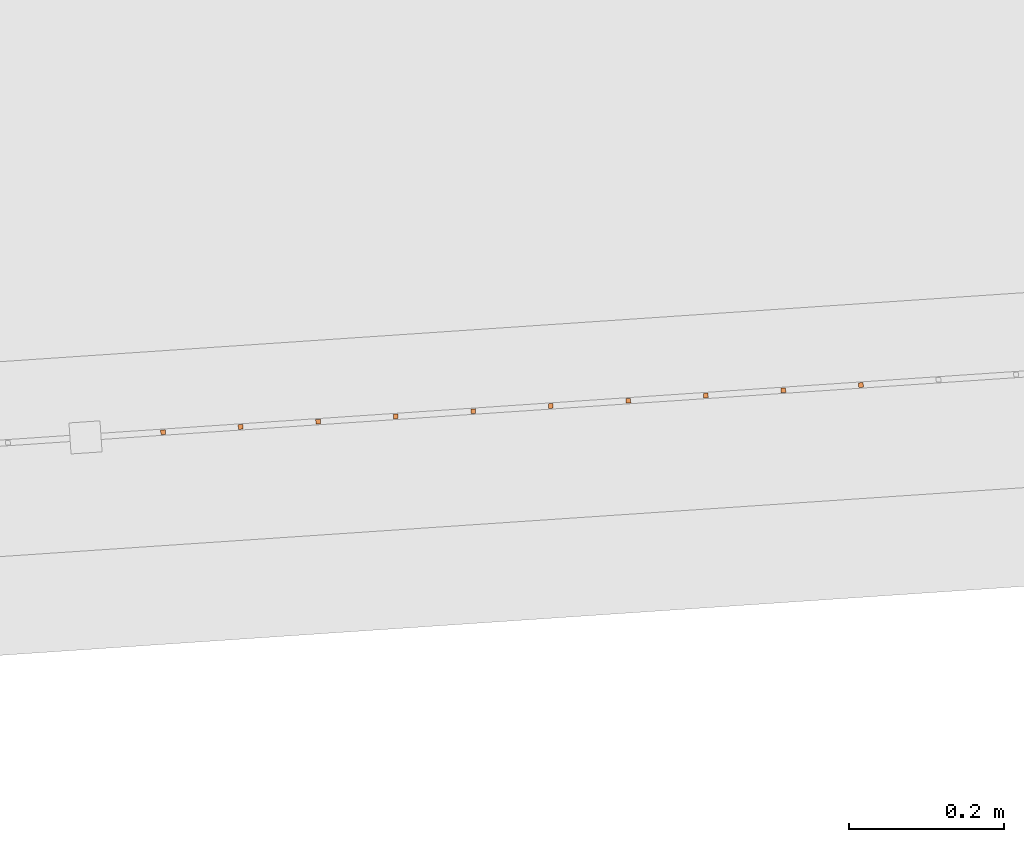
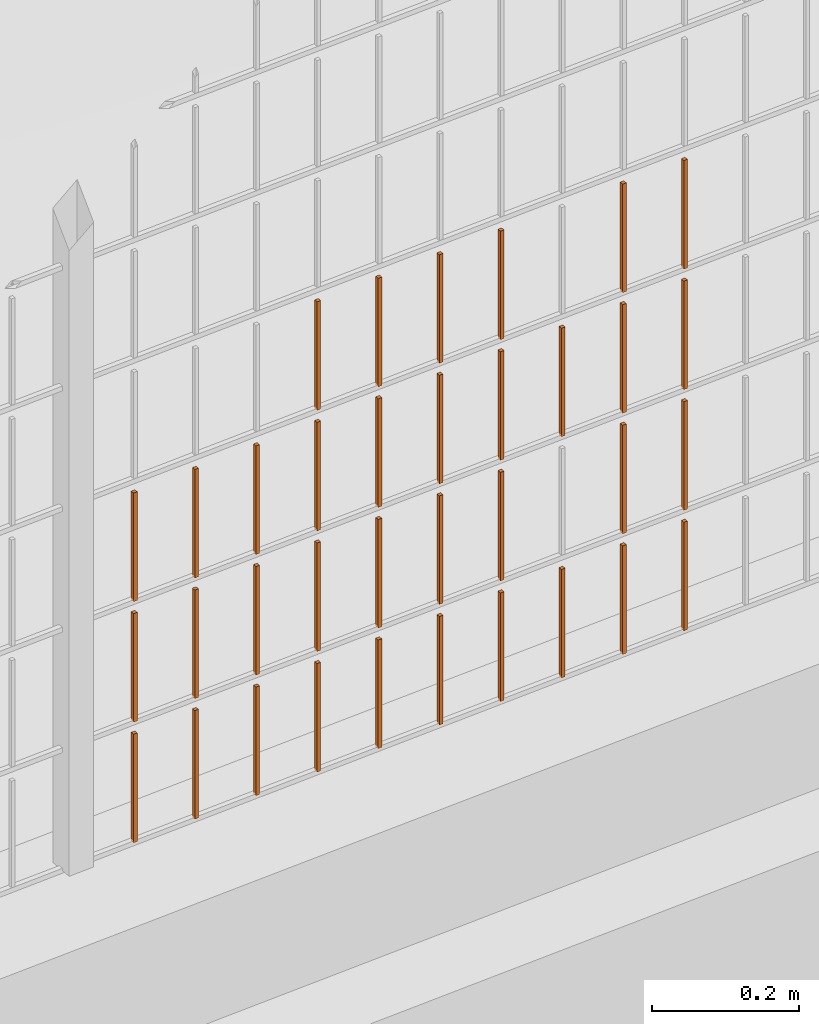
# One storey, part 352 of 1809: 35 proxies, 1 element without a shape of its own.
"""IFC2X3 building model written with IfcOpenShell, lengths in millimetres."""

from ifc_helpers import new_model, entity, si_unit, converted_unit, derived_unit, money_unit, direction, frame, origin_with_axes, place, context, subcontext, project, spatial, faceted_brep, source, transform, mapped, material, type_object, element, aggregate, save


model = new_model("IFC2X3")

# Units and contexts
model_context = context("Model", 3, precision=0.01, world=origin_with_axes(), true_north=direction((0.0, 1.0)))
body_context = subcontext(model_context, "Body", "Model", "MODEL_VIEW")
ifc_project = project(units=[si_unit("LENGTHUNIT", "METRE", prefix="MILLI"), si_unit("AREAUNIT", "SQUARE_METRE"), si_unit("VOLUMEUNIT", "CUBIC_METRE"), converted_unit("PLANEANGLEUNIT", "DEGREE", entity("IfcPlaneAngleMeasure", 0.0174532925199), si_unit("PLANEANGLEUNIT", "RADIAN"), dimensions=[0, 0, 0, 0, 0, 0, 0]), si_unit("SOLIDANGLEUNIT", "STERADIAN"), money_unit("EUR"), converted_unit("TIMEUNIT", "Year", entity("IfcTimeMeasure", 31556926.0), si_unit("TIMEUNIT", "SECOND"), dimensions=[0, 0, 1, 0, 0, 0, 0]), si_unit("MASSUNIT", "GRAM", prefix="KILO"), si_unit("THERMODYNAMICTEMPERATUREUNIT", "DEGREE_CELSIUS"), si_unit("LUMINOUSINTENSITYUNIT", "LUMEN"), si_unit("ENERGYUNIT", "JOULE", prefix="MEGA"), derived_unit("THERMALCONDUCTANCEUNIT", [(si_unit("POWERUNIT", "WATT"), 1), (si_unit("LENGTHUNIT", "METRE"), -1), (si_unit("THERMODYNAMICTEMPERATUREUNIT", "KELVIN"), -1)]), derived_unit("SPECIFICHEATCAPACITYUNIT", [(si_unit("ENERGYUNIT", "JOULE"), 1), (si_unit("MASSUNIT", "GRAM", prefix="KILO"), -1), (si_unit("THERMODYNAMICTEMPERATUREUNIT", "KELVIN"), -1)]), derived_unit("MASSDENSITYUNIT", [(si_unit("MASSUNIT", "GRAM", prefix="KILO"), 1), (si_unit("VOLUMEUNIT", "CUBIC_METRE"), -1)])], contexts=[model_context])

# Site, building, storey
site_placement = place(None, origin_with_axes())
site = spatial("IfcSite", under=ifc_project, at=site_placement, Name="Politse- ja Piirivalveameti ning Päästeameti ühishoone", CompositionType="ELEMENT")
building_placement = place(site_placement, origin_with_axes())
building = spatial("IfcBuilding", under=site, at=building_placement, Name="Politse- ja Piirivalveameti ning Päästeameti ühishoone", CompositionType="ELEMENT")
storey_placement = place(building_placement, origin_with_axes())
storey = spatial("IfcBuildingStorey", under=building, at=storey_placement, Name="Esimene korrus", CompositionType="ELEMENT", Elevation=0.0)

# Proxies
building_element_proxy_type_1 = type_object("IfcBuildingElementProxyType", Name="Railing Type", PredefinedType="NOTDEFINED")
proxy_1_placement = place(storey_placement, frame((89252.001212, -29183.4766571, 203.661247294), z_axis=(0.0, 0.0, 1.0), x_axis=(1.0, 0.0, 0.0)))
proxy_1 = element("IfcBuildingElementProxy", 1, at=proxy_1_placement, inside=storey, type_object=building_element_proxy_type_1, Name="PIIRDEAED")
ifc_material = material(Name="ET-03_Raud")
building_element_proxy_type_2 = type_object("IfcBuildingElementProxyType", Name="IfcBuildingElementProxy", PredefinedType="NOTDEFINED")
shared_shape_1 = source(origin_with_axes(), body_context, "Body", "Brep", [
    faceted_brep([(3.0, 3.0, -0.000752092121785), (-3.0, 3.0, -0.000752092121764), (-3.0, 3.0, 179.99926046), (3.0, 3.0, 179.99926046), (3.0, -3.0, 0.000752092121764), (-3.0, -3.0, 0.000752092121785), (-3.0, -3.0, 180.000764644), (3.0, -3.0, 180.000764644)], [[[0, 1, 2, 3]], [[0, 4, 5, 1]], [[1, 5, 6, 2]], [[3, 2, 6, 7]], [[4, 0, 3, 7]], [[5, 4, 7, 6]]]),
])
proxy_2_placement = place(proxy_1_placement, frame((-26865.4709585, -19112.4359382, 20.4839355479), z_axis=(0.0, 0.0, 1.0), x_axis=(1.0, 0.0, 0.0)))
proxy_2 = element("IfcBuildingElementProxy", 2, at=proxy_2_placement, type_object=building_element_proxy_type_2, material=ifc_material, Name="BALUSTER - 001", context=body_context, shape_type="MappedRepresentation", body=[
    mapped(shared_shape_1, transform((0.0, 0.0, 0.0), x_axis=(-0.0673926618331, 0.997726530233, 0.0), y_axis=(-0.997726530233, -0.0673926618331, 0.0), z_axis=(0.0, 0.0, 1.0))),
])
shared_shape_2 = source(origin_with_axes(), body_context, "Body", "Brep", [
    faceted_brep([(3.0, 3.0, -0.000752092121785), (-3.0, 3.0, -0.000752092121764), (-3.0, 3.0, 179.99926046), (3.0, 3.0, 179.99926046), (3.0, -3.0, 0.000752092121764), (-3.0, -3.0, 0.000752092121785), (-3.0, -3.0, 180.000764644), (3.0, -3.0, 180.000764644)], [[[0, 1, 2, 3]], [[0, 4, 5, 1]], [[1, 5, 6, 2]], [[3, 2, 6, 7]], [[4, 0, 3, 7]], [[5, 4, 7, 6]]]),
])
proxy_3_placement = place(proxy_1_placement, frame((-26865.4709585, -19112.4359382, 420.483935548), z_axis=(0.0, 0.0, 1.0), x_axis=(1.0, 0.0, 0.0)))
proxy_3 = element("IfcBuildingElementProxy", 3, at=proxy_3_placement, type_object=building_element_proxy_type_2, material=ifc_material, Name="BALUSTER - 001", context=body_context, shape_type="MappedRepresentation", body=[
    mapped(shared_shape_2, transform((0.0, 0.0, 0.0), x_axis=(-0.0673926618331, 0.997726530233, 0.0), y_axis=(-0.997726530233, -0.0673926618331, 0.0), z_axis=(0.0, 0.0, 1.0))),
])
shared_shape_3 = source(origin_with_axes(), body_context, "Body", "Brep", [
    faceted_brep([(3.0, 3.0, -0.000752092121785), (-3.0, 3.0, -0.000752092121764), (-3.0, 3.0, 179.99926046), (3.0, 3.0, 179.99926046), (3.0, -3.0, 0.000752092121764), (-3.0, -3.0, 0.000752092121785), (-3.0, -3.0, 180.000764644), (3.0, -3.0, 180.000764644)], [[[0, 1, 2, 3]], [[0, 4, 5, 1]], [[1, 5, 6, 2]], [[3, 2, 6, 7]], [[4, 0, 3, 7]], [[5, 4, 7, 6]]]),
])
proxy_4_placement = place(proxy_1_placement, frame((-26865.4709585, -19112.4359382, 620.483935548), z_axis=(0.0, 0.0, 1.0), x_axis=(1.0, 0.0, 0.0)))
proxy_4 = element("IfcBuildingElementProxy", 4, at=proxy_4_placement, type_object=building_element_proxy_type_2, material=ifc_material, Name="BALUSTER - 001", context=body_context, shape_type="MappedRepresentation", body=[
    mapped(shared_shape_3, transform((0.0, 0.0, 0.0), x_axis=(-0.0673926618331, 0.997726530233, 0.0), y_axis=(-0.997726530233, -0.0673926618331, 0.0), z_axis=(0.0, 0.0, 1.0))),
])
shared_shape_4 = source(origin_with_axes(), body_context, "Body", "Brep", [
    faceted_brep([(3.0, 3.0, -0.000752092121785), (-3.0, 3.0, -0.000752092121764), (-3.0, 3.0, 179.99926046), (3.0, 3.0, 179.99926046), (3.0, -3.0, 0.000752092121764), (-3.0, -3.0, 0.000752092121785), (-3.0, -3.0, 180.000764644), (3.0, -3.0, 180.000764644)], [[[0, 1, 2, 3]], [[0, 4, 5, 1]], [[1, 5, 6, 2]], [[3, 2, 6, 7]], [[4, 0, 3, 7]], [[5, 4, 7, 6]]]),
])
proxy_5_placement = place(proxy_1_placement, frame((-26865.4709585, -19112.4359382, 220.483935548), z_axis=(0.0, 0.0, 1.0), x_axis=(1.0, 0.0, 0.0)))
proxy_5 = element("IfcBuildingElementProxy", 5, at=proxy_5_placement, type_object=building_element_proxy_type_2, material=ifc_material, Name="BALUSTER - 001", context=body_context, shape_type="MappedRepresentation", body=[
    mapped(shared_shape_4, transform((0.0, 0.0, 0.0), x_axis=(-0.0673926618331, 0.997726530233, 0.0), y_axis=(-0.997726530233, -0.0673926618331, 0.0), z_axis=(0.0, 0.0, 1.0))),
])
shared_shape_5 = source(origin_with_axes(), body_context, "Body", "Brep", [
    faceted_brep([(3.0, 3.0, -0.000752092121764), (-3.0, 3.0, -0.000752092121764), (-3.0, 3.0, 179.99926046), (3.0, 3.0, 179.99926046), (3.0, -3.0, 0.000752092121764), (-3.0, -3.0, 0.000752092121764), (-3.0, -3.0, 180.000764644), (3.0, -3.0, 180.000764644)], [[[0, 1, 2, 3]], [[0, 4, 5, 1]], [[1, 5, 6, 2]], [[3, 2, 6, 7]], [[4, 0, 3, 7]], [[5, 4, 7, 6]]]),
])
proxy_6_placement = place(proxy_1_placement, frame((-26765.6983054, -19105.696672, 620.509005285), z_axis=(0.0, 0.0, 1.0), x_axis=(1.0, 0.0, 0.0)))
proxy_6 = element("IfcBuildingElementProxy", 6, at=proxy_6_placement, type_object=building_element_proxy_type_2, material=ifc_material, Name="BALUSTER - 001", context=body_context, shape_type="MappedRepresentation", body=[
    mapped(shared_shape_5, transform((0.0, 0.0, 0.0), x_axis=(-0.0673926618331, 0.997726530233, 0.0), y_axis=(-0.997726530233, -0.0673926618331, 0.0), z_axis=(0.0, 0.0, 1.0))),
])
shared_shape_6 = source(origin_with_axes(), body_context, "Body", "Brep", [
    faceted_brep([(3.0, 3.0, -0.000752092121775), (-3.0, 3.0, -0.000752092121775), (-3.0, 3.0, 179.99926046), (3.0, 3.0, 179.99926046), (3.0, -3.0, 0.000752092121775), (-3.0, -3.0, 0.000752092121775), (-3.0, -3.0, 180.000764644), (3.0, -3.0, 180.000764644)], [[[0, 1, 2, 3]], [[0, 4, 5, 1]], [[1, 5, 6, 2]], [[3, 2, 6, 7]], [[4, 0, 3, 7]], [[5, 4, 7, 6]]]),
])
proxy_7_placement = place(proxy_1_placement, frame((-26266.8350403, -19072.0003411, 20.6343539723), z_axis=(0.0, 0.0, 1.0), x_axis=(1.0, 0.0, 0.0)))
proxy_7 = element("IfcBuildingElementProxy", 7, at=proxy_7_placement, type_object=building_element_proxy_type_2, material=ifc_material, Name="BALUSTER - 001", context=body_context, shape_type="MappedRepresentation", body=[
    mapped(shared_shape_6, transform((0.0, 0.0, 0.0), x_axis=(-0.0673926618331, 0.997726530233, 0.0), y_axis=(-0.997726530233, -0.0673926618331, 0.0), z_axis=(0.0, 0.0, 1.0))),
])
shared_shape_7 = source(origin_with_axes(), body_context, "Body", "Brep", [
    faceted_brep([(3.0, 3.0, -0.000752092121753), (-3.0, 3.0, -0.000752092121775), (-3.0, 3.0, 179.99926046), (3.0, 3.0, 179.99926046), (3.0, -3.0, 0.000752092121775), (-3.0, -3.0, 0.000752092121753), (-3.0, -3.0, 180.000764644), (3.0, -3.0, 180.000764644)], [[[0, 1, 2, 3]], [[0, 4, 5, 1]], [[1, 5, 6, 2]], [[3, 2, 6, 7]], [[4, 0, 3, 7]], [[5, 4, 7, 6]]]),
])
proxy_8_placement = place(proxy_1_placement, frame((-26466.3803464, -19085.4788735, 420.584214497), z_axis=(0.0, 0.0, 1.0), x_axis=(1.0, 0.0, 0.0)))
proxy_8 = element("IfcBuildingElementProxy", 8, at=proxy_8_placement, type_object=building_element_proxy_type_2, material=ifc_material, Name="BALUSTER - 001", context=body_context, shape_type="MappedRepresentation", body=[
    mapped(shared_shape_7, transform((0.0, 0.0, 0.0), x_axis=(-0.0673926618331, 0.997726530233, 0.0), y_axis=(-0.997726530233, -0.0673926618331, 0.0), z_axis=(0.0, 0.0, 1.0))),
])
shared_shape_8 = source(origin_with_axes(), body_context, "Body", "Brep", [
    faceted_brep([(3.0, 3.0, -0.000752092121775), (-3.0, 3.0, -0.000752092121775), (-3.0, 3.0, 179.99926046), (3.0, 3.0, 179.99926046), (3.0, -3.0, 0.000752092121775), (-3.0, -3.0, 0.000752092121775), (-3.0, -3.0, 180.000764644), (3.0, -3.0, 180.000764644)], [[[0, 1, 2, 3]], [[0, 4, 5, 1]], [[1, 5, 6, 2]], [[3, 2, 6, 7]], [[4, 0, 3, 7]], [[5, 4, 7, 6]]]),
])
proxy_9_placement = place(proxy_1_placement, frame((-26266.8350403, -19072.0003411, 220.634353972), z_axis=(0.0, 0.0, 1.0), x_axis=(1.0, 0.0, 0.0)))
proxy_9 = element("IfcBuildingElementProxy", 9, at=proxy_9_placement, type_object=building_element_proxy_type_2, material=ifc_material, Name="BALUSTER - 001", context=body_context, shape_type="MappedRepresentation", body=[
    mapped(shared_shape_8, transform((0.0, 0.0, 0.0), x_axis=(-0.0673926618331, 0.997726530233, 0.0), y_axis=(-0.997726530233, -0.0673926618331, 0.0), z_axis=(0.0, 0.0, 1.0))),
])
proxy_10_placement = place(proxy_1_placement, frame((-26266.8350403, -19072.0003411, 420.634353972), z_axis=(0.0, 0.0, 1.0), x_axis=(1.0, 0.0, 0.0)))
proxy_10 = element("IfcBuildingElementProxy", 10, at=proxy_10_placement, type_object=building_element_proxy_type_2, material=ifc_material, Name="BALUSTER - 001", context=body_context, shape_type="MappedRepresentation", body=[
    mapped(shared_shape_8, transform((0.0, 0.0, 0.0), x_axis=(-0.0673926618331, 0.997726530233, 0.0), y_axis=(-0.997726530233, -0.0673926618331, 0.0), z_axis=(0.0, 0.0, 1.0))),
])
shared_shape_9 = source(origin_with_axes(), body_context, "Body", "Brep", [
    faceted_brep([(3.0, 3.0, -0.000752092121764), (-3.0, 3.0, -0.000752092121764), (-3.0, 3.0, 179.99926046), (3.0, 3.0, 179.99926046), (3.0, -3.0, 0.000752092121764), (-3.0, -3.0, 0.000752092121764), (-3.0, -3.0, 180.000764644), (3.0, -3.0, 180.000764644)], [[[0, 1, 2, 3]], [[0, 4, 5, 1]], [[1, 5, 6, 2]], [[3, 2, 6, 7]], [[4, 0, 3, 7]], [[5, 4, 7, 6]]]),
])
proxy_11_placement = place(proxy_1_placement, frame((-26965.2436115, -19119.1752044, 220.458865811), z_axis=(0.0, 0.0, 1.0), x_axis=(1.0, 0.0, 0.0)))
proxy_11 = element("IfcBuildingElementProxy", 11, at=proxy_11_placement, type_object=building_element_proxy_type_2, material=ifc_material, Name="BALUSTER - 001", context=body_context, shape_type="MappedRepresentation", body=[
    mapped(shared_shape_9, transform((0.0, 0.0, 0.0), x_axis=(-0.0673926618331, 0.997726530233, 0.0), y_axis=(-0.997726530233, -0.0673926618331, 0.0), z_axis=(0.0, 0.0, 1.0))),
])
shared_shape_10 = source(origin_with_axes(), body_context, "Body", "Brep", [
    faceted_brep([(3.0, 3.0, -0.000752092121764), (-3.0, 3.0, -0.000752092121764), (-3.0, 3.0, 179.99926046), (3.0, 3.0, 179.99926046), (3.0, -3.0, 0.000752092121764), (-3.0, -3.0, 0.000752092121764), (-3.0, -3.0, 180.000764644), (3.0, -3.0, 180.000764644)], [[[0, 1, 2, 3]], [[0, 4, 5, 1]], [[1, 5, 6, 2]], [[3, 2, 6, 7]], [[4, 0, 3, 7]], [[5, 4, 7, 6]]]),
])
proxy_12_placement = place(proxy_1_placement, frame((-26765.6983054, -19105.696672, 220.509005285), z_axis=(0.0, 0.0, 1.0), x_axis=(1.0, 0.0, 0.0)))
proxy_12 = element("IfcBuildingElementProxy", 12, at=proxy_12_placement, type_object=building_element_proxy_type_2, material=ifc_material, Name="BALUSTER - 001", context=body_context, shape_type="MappedRepresentation", body=[
    mapped(shared_shape_10, transform((0.0, 0.0, 0.0), x_axis=(-0.0673926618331, 0.997726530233, 0.0), y_axis=(-0.997726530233, -0.0673926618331, 0.0), z_axis=(0.0, 0.0, 1.0))),
])
proxy_13_placement = place(proxy_1_placement, frame((-26765.6983054, -19105.696672, 420.509005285), z_axis=(0.0, 0.0, 1.0), x_axis=(1.0, 0.0, 0.0)))
proxy_13 = element("IfcBuildingElementProxy", 13, at=proxy_13_placement, type_object=building_element_proxy_type_2, material=ifc_material, Name="BALUSTER - 001", context=body_context, shape_type="MappedRepresentation", body=[
    mapped(shared_shape_10, transform((0.0, 0.0, 0.0), x_axis=(-0.0673926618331, 0.997726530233, 0.0), y_axis=(-0.997726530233, -0.0673926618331, 0.0), z_axis=(0.0, 0.0, 1.0))),
])
proxy_14_placement = place(proxy_1_placement, frame((-26965.2436115, -19119.1752044, 420.458865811), z_axis=(0.0, 0.0, 1.0), x_axis=(1.0, 0.0, 0.0)))
proxy_14 = element("IfcBuildingElementProxy", 14, at=proxy_14_placement, type_object=building_element_proxy_type_2, material=ifc_material, Name="BALUSTER - 001", context=body_context, shape_type="MappedRepresentation", body=[
    mapped(shared_shape_10, transform((0.0, 0.0, 0.0), x_axis=(-0.0673926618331, 0.997726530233, 0.0), y_axis=(-0.997726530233, -0.0673926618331, 0.0), z_axis=(0.0, 0.0, 1.0))),
])
shared_shape_11 = source(origin_with_axes(), body_context, "Body", "Brep", [
    faceted_brep([(3.0, 3.0, -0.000752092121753), (-3.0, 3.0, -0.000752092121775), (-3.0, 3.0, 179.99926046), (3.0, 3.0, 179.99926046), (3.0, -3.0, 0.000752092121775), (-3.0, -3.0, 0.000752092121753), (-3.0, -3.0, 180.000764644), (3.0, -3.0, 180.000764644)], [[[0, 1, 2, 3]], [[0, 4, 5, 1]], [[1, 5, 6, 2]], [[3, 2, 6, 7]], [[4, 0, 3, 7]], [[5, 4, 7, 6]]]),
])
proxy_15_placement = place(proxy_1_placement, frame((-26566.1529994, -19092.2181397, 420.55914476), z_axis=(0.0, 0.0, 1.0), x_axis=(1.0, 0.0, 0.0)))
proxy_15 = element("IfcBuildingElementProxy", 15, at=proxy_15_placement, type_object=building_element_proxy_type_2, material=ifc_material, Name="BALUSTER - 001", context=body_context, shape_type="MappedRepresentation", body=[
    mapped(shared_shape_11, transform((0.0, 0.0, 0.0), x_axis=(-0.0673926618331, 0.997726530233, 0.0), y_axis=(-0.997726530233, -0.0673926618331, 0.0), z_axis=(0.0, 0.0, 1.0))),
])
shared_shape_12 = source(origin_with_axes(), body_context, "Body", "Brep", [
    faceted_brep([(3.0, 3.0, -0.000752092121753), (-3.0, 3.0, -0.000752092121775), (-3.0, 3.0, 179.99926046), (3.0, 3.0, 179.99926046), (3.0, -3.0, 0.000752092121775), (-3.0, -3.0, 0.000752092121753), (-3.0, -3.0, 180.000764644), (3.0, -3.0, 180.000764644)], [[[0, 1, 2, 3]], [[0, 4, 5, 1]], [[1, 5, 6, 2]], [[3, 2, 6, 7]], [[4, 0, 3, 7]], [[5, 4, 7, 6]]]),
])
proxy_16_placement = place(proxy_1_placement, frame((-26566.1529994, -19092.2181397, 620.55914476), z_axis=(0.0, 0.0, 1.0), x_axis=(1.0, 0.0, 0.0)))
proxy_16 = element("IfcBuildingElementProxy", 16, at=proxy_16_placement, type_object=building_element_proxy_type_2, material=ifc_material, Name="BALUSTER - 001", context=body_context, shape_type="MappedRepresentation", body=[
    mapped(shared_shape_12, transform((0.0, 0.0, 0.0), x_axis=(-0.0673926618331, 0.997726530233, 0.0), y_axis=(-0.997726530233, -0.0673926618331, 0.0), z_axis=(0.0, 0.0, 1.0))),
])
shared_shape_13 = source(origin_with_axes(), body_context, "Body", "Brep", [
    faceted_brep([(3.0, 3.0, -0.000752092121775), (-3.0, 3.0, -0.000752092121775), (-3.0, 3.0, 179.99926046), (3.0, 3.0, 179.99926046), (3.0, -3.0, 0.000752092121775), (-3.0, -3.0, 0.000752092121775), (-3.0, -3.0, 180.000764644), (3.0, -3.0, 180.000764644)], [[[0, 1, 2, 3]], [[0, 4, 5, 1]], [[1, 5, 6, 2]], [[3, 2, 6, 7]], [[4, 0, 3, 7]], [[5, 4, 7, 6]]]),
])
proxy_17_placement = place(proxy_1_placement, frame((-26266.8350403, -19072.0003411, 620.634353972), z_axis=(0.0, 0.0, 1.0), x_axis=(1.0, 0.0, 0.0)))
proxy_17 = element("IfcBuildingElementProxy", 17, at=proxy_17_placement, type_object=building_element_proxy_type_2, material=ifc_material, Name="BALUSTER - 001", context=body_context, shape_type="MappedRepresentation", body=[
    mapped(shared_shape_13, transform((0.0, 0.0, 0.0), x_axis=(-0.0673926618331, 0.997726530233, 0.0), y_axis=(-0.997726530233, -0.0673926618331, 0.0), z_axis=(0.0, 0.0, 1.0))),
])
shared_shape_14 = source(origin_with_axes(), body_context, "Body", "Brep", [
    faceted_brep([(3.0, 3.0, -0.000752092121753), (-3.0, 3.0, -0.000752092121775), (-3.0, 3.0, 179.99926046), (3.0, 3.0, 179.99926046), (3.0, -3.0, 0.000752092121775), (-3.0, -3.0, 0.000752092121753), (-3.0, -3.0, 180.000764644), (3.0, -3.0, 180.000764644)], [[[0, 1, 2, 3]], [[0, 4, 5, 1]], [[1, 5, 6, 2]], [[3, 2, 6, 7]], [[4, 0, 3, 7]], [[5, 4, 7, 6]]]),
])
proxy_18_placement = place(proxy_1_placement, frame((-26466.3803464, -19085.4788735, 20.5842144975), z_axis=(0.0, 0.0, 1.0), x_axis=(1.0, 0.0, 0.0)))
proxy_18 = element("IfcBuildingElementProxy", 18, at=proxy_18_placement, type_object=building_element_proxy_type_2, material=ifc_material, Name="BALUSTER - 001", context=body_context, shape_type="MappedRepresentation", body=[
    mapped(shared_shape_14, transform((0.0, 0.0, 0.0), x_axis=(-0.0673926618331, 0.997726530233, 0.0), y_axis=(-0.997726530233, -0.0673926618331, 0.0), z_axis=(0.0, 0.0, 1.0))),
])
shared_shape_15 = source(origin_with_axes(), body_context, "Body", "Brep", [
    faceted_brep([(3.0, 3.0, -0.000752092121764), (-3.0, 3.0, -0.000752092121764), (-3.0, 3.0, 179.99926046), (3.0, 3.0, 179.99926046), (3.0, -3.0, 0.000752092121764), (-3.0, -3.0, 0.000752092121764), (-3.0, -3.0, 180.000764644), (3.0, -3.0, 180.000764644)], [[[0, 1, 2, 3]], [[0, 4, 5, 1]], [[1, 5, 6, 2]], [[3, 2, 6, 7]], [[4, 0, 3, 7]], [[5, 4, 7, 6]]]),
])
proxy_19_placement = place(proxy_1_placement, frame((-26765.6983054, -19105.696672, 20.5090052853), z_axis=(0.0, 0.0, 1.0), x_axis=(1.0, 0.0, 0.0)))
proxy_19 = element("IfcBuildingElementProxy", 19, at=proxy_19_placement, type_object=building_element_proxy_type_2, material=ifc_material, Name="BALUSTER - 001", context=body_context, shape_type="MappedRepresentation", body=[
    mapped(shared_shape_15, transform((0.0, 0.0, 0.0), x_axis=(-0.0673926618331, 0.997726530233, 0.0), y_axis=(-0.997726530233, -0.0673926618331, 0.0), z_axis=(0.0, 0.0, 1.0))),
])
proxy_20_placement = place(proxy_1_placement, frame((-26965.2436115, -19119.1752044, 20.4588658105), z_axis=(0.0, 0.0, 1.0), x_axis=(1.0, 0.0, 0.0)))
proxy_20 = element("IfcBuildingElementProxy", 20, at=proxy_20_placement, type_object=building_element_proxy_type_2, material=ifc_material, Name="BALUSTER - 001", context=body_context, shape_type="MappedRepresentation", body=[
    mapped(shared_shape_15, transform((0.0, 0.0, 0.0), x_axis=(-0.0673926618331, 0.997726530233, 0.0), y_axis=(-0.997726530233, -0.0673926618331, 0.0), z_axis=(0.0, 0.0, 1.0))),
])
shared_shape_16 = source(origin_with_axes(), body_context, "Body", "Brep", [
    faceted_brep([(3.0, 3.0, -0.000752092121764), (-3.0, 3.0, -0.000752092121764), (-3.0, 3.0, 179.99926046), (3.0, 3.0, 179.99926046), (3.0, -3.0, 0.000752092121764), (-3.0, -3.0, 0.000752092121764), (-3.0, -3.0, 180.000764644), (3.0, -3.0, 180.000764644)], [[[0, 1, 2, 3]], [[0, 4, 5, 1]], [[1, 5, 6, 2]], [[3, 2, 6, 7]], [[4, 0, 3, 7]], [[5, 4, 7, 6]]]),
])
proxy_21_placement = place(proxy_1_placement, frame((-26366.6076933, -19078.7396073, 20.6092842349), z_axis=(0.0, 0.0, 1.0), x_axis=(1.0, 0.0, 0.0)))
proxy_21 = element("IfcBuildingElementProxy", 21, at=proxy_21_placement, type_object=building_element_proxy_type_2, material=ifc_material, Name="BALUSTER - 001", context=body_context, shape_type="MappedRepresentation", body=[
    mapped(shared_shape_16, transform((0.0, 0.0, 0.0), x_axis=(-0.0673926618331, 0.997726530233, 0.0), y_axis=(-0.997726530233, -0.0673926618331, 0.0), z_axis=(0.0, 0.0, 1.0))),
])
shared_shape_17 = source(origin_with_axes(), body_context, "Body", "Brep", [
    faceted_brep([(3.0, 3.0, -0.000752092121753), (-3.0, 3.0, -0.000752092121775), (-3.0, 3.0, 179.99926046), (3.0, 3.0, 179.99926046), (3.0, -3.0, 0.000752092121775), (-3.0, -3.0, 0.000752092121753), (-3.0, -3.0, 180.000764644), (3.0, -3.0, 180.000764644)], [[[0, 1, 2, 3]], [[0, 4, 5, 1]], [[1, 5, 6, 2]], [[3, 2, 6, 7]], [[4, 0, 3, 7]], [[5, 4, 7, 6]]]),
])
proxy_22_placement = place(proxy_1_placement, frame((-26566.1529994, -19092.2181397, 20.5591447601), z_axis=(0.0, 0.0, 1.0), x_axis=(1.0, 0.0, 0.0)))
proxy_22 = element("IfcBuildingElementProxy", 22, at=proxy_22_placement, type_object=building_element_proxy_type_2, material=ifc_material, Name="BALUSTER - 001", context=body_context, shape_type="MappedRepresentation", body=[
    mapped(shared_shape_17, transform((0.0, 0.0, 0.0), x_axis=(-0.0673926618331, 0.997726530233, 0.0), y_axis=(-0.997726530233, -0.0673926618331, 0.0), z_axis=(0.0, 0.0, 1.0))),
])
proxy_23_placement = place(proxy_1_placement, frame((-26566.1529994, -19092.2181397, 220.55914476), z_axis=(0.0, 0.0, 1.0), x_axis=(1.0, 0.0, 0.0)))
proxy_23 = element("IfcBuildingElementProxy", 23, at=proxy_23_placement, type_object=building_element_proxy_type_2, material=ifc_material, Name="BALUSTER - 001", context=body_context, shape_type="MappedRepresentation", body=[
    mapped(shared_shape_17, transform((0.0, 0.0, 0.0), x_axis=(-0.0673926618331, 0.997726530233, 0.0), y_axis=(-0.997726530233, -0.0673926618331, 0.0), z_axis=(0.0, 0.0, 1.0))),
])
shared_shape_18 = source(origin_with_axes(), body_context, "Body", "Brep", [
    faceted_brep([(3.0, 3.0, -0.000752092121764), (-3.0, 3.0, -0.000752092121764), (-3.0, 3.0, 179.99926046), (3.0, 3.0, 179.99926046), (3.0, -3.0, 0.000752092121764), (-3.0, -3.0, 0.000752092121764), (-3.0, -3.0, 180.000764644), (3.0, -3.0, 180.000764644)], [[[0, 1, 2, 3]], [[0, 4, 5, 1]], [[1, 5, 6, 2]], [[3, 2, 6, 7]], [[4, 0, 3, 7]], [[5, 4, 7, 6]]]),
])
proxy_24_placement = place(proxy_1_placement, frame((-26665.9256524, -19098.9574059, 20.5340750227), z_axis=(0.0, 0.0, 1.0), x_axis=(1.0, 0.0, 0.0)))
proxy_24 = element("IfcBuildingElementProxy", 24, at=proxy_24_placement, type_object=building_element_proxy_type_2, material=ifc_material, Name="BALUSTER - 001", context=body_context, shape_type="MappedRepresentation", body=[
    mapped(shared_shape_18, transform((0.0, 0.0, 0.0), x_axis=(-0.0673926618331, 0.997726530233, 0.0), y_axis=(-0.997726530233, -0.0673926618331, 0.0), z_axis=(0.0, 0.0, 1.0))),
])
shared_shape_19 = source(origin_with_axes(), body_context, "Body", "Brep", [
    faceted_brep([(3.0, 3.0, -0.000752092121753), (-3.0, 3.0, -0.000752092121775), (-3.0, 3.0, 179.99926046), (3.0, 3.0, 179.99926046), (3.0, -3.0, 0.000752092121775), (-3.0, -3.0, 0.000752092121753), (-3.0, -3.0, 180.000764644), (3.0, -3.0, 180.000764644)], [[[0, 1, 2, 3]], [[0, 4, 5, 1]], [[1, 5, 6, 2]], [[3, 2, 6, 7]], [[4, 0, 3, 7]], [[5, 4, 7, 6]]]),
])
proxy_25_placement = place(proxy_1_placement, frame((-27065.0162645, -19125.9144706, 20.4337960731), z_axis=(0.0, 0.0, 1.0), x_axis=(1.0, 0.0, 0.0)))
proxy_25 = element("IfcBuildingElementProxy", 25, at=proxy_25_placement, type_object=building_element_proxy_type_2, material=ifc_material, Name="BALUSTER - 001", context=body_context, shape_type="MappedRepresentation", body=[
    mapped(shared_shape_19, transform((0.0, 0.0, 0.0), x_axis=(-0.0673926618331, 0.997726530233, 0.0), y_axis=(-0.997726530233, -0.0673926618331, 0.0), z_axis=(0.0, 0.0, 1.0))),
])
shared_shape_20 = source(origin_with_axes(), body_context, "Body", "Brep", [
    faceted_brep([(3.0, 3.0, -0.000752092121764), (-3.0, 3.0, -0.000752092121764), (-3.0, 3.0, 179.99926046), (3.0, 3.0, 179.99926046), (3.0, -3.0, 0.000752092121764), (-3.0, -3.0, 0.000752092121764), (-3.0, -3.0, 180.000764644), (3.0, -3.0, 180.000764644)], [[[0, 1, 2, 3]], [[0, 4, 5, 1]], [[1, 5, 6, 2]], [[3, 2, 6, 7]], [[4, 0, 3, 7]], [[5, 4, 7, 6]]]),
])
proxy_26_placement = place(proxy_1_placement, frame((-27164.7889175, -19132.6537368, 20.4087263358), z_axis=(0.0, 0.0, 1.0), x_axis=(1.0, 0.0, 0.0)))
proxy_26 = element("IfcBuildingElementProxy", 26, at=proxy_26_placement, type_object=building_element_proxy_type_2, material=ifc_material, Name="BALUSTER - 001", context=body_context, shape_type="MappedRepresentation", body=[
    mapped(shared_shape_20, transform((0.0, 0.0, 0.0), x_axis=(-0.0673926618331, 0.997726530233, 0.0), y_axis=(-0.997726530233, -0.0673926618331, 0.0), z_axis=(0.0, 0.0, 1.0))),
])
shared_shape_21 = source(origin_with_axes(), body_context, "Body", "Brep", [
    faceted_brep([(3.0, 3.0, -0.000752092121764), (-3.0, 3.0, -0.000752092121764), (-3.0, 3.0, 179.99926046), (3.0, 3.0, 179.99926046), (3.0, -3.0, 0.000752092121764), (-3.0, -3.0, 0.000752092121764), (-3.0, -3.0, 180.000764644), (3.0, -3.0, 180.000764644)], [[[0, 1, 2, 3]], [[0, 4, 5, 1]], [[1, 5, 6, 2]], [[3, 2, 6, 7]], [[4, 0, 3, 7]], [[5, 4, 7, 6]]]),
])
proxy_27_placement = place(proxy_1_placement, frame((-26366.6076933, -19078.7396073, 220.609284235), z_axis=(0.0, 0.0, 1.0), x_axis=(1.0, 0.0, 0.0)))
proxy_27 = element("IfcBuildingElementProxy", 27, at=proxy_27_placement, type_object=building_element_proxy_type_2, material=ifc_material, Name="BALUSTER - 001", context=body_context, shape_type="MappedRepresentation", body=[
    mapped(shared_shape_21, transform((0.0, 0.0, 0.0), x_axis=(-0.0673926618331, 0.997726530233, 0.0), y_axis=(-0.997726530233, -0.0673926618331, 0.0), z_axis=(0.0, 0.0, 1.0))),
])
shared_shape_22 = source(origin_with_axes(), body_context, "Body", "Brep", [
    faceted_brep([(3.0, 3.0, -0.000752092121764), (-3.0, 3.0, -0.000752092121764), (-3.0, 3.0, 179.99926046), (3.0, 3.0, 179.99926046), (3.0, -3.0, 0.000752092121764), (-3.0, -3.0, 0.000752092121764), (-3.0, -3.0, 180.000764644), (3.0, -3.0, 180.000764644)], [[[0, 1, 2, 3]], [[0, 4, 5, 1]], [[1, 5, 6, 2]], [[3, 2, 6, 7]], [[4, 0, 3, 7]], [[5, 4, 7, 6]]]),
])
proxy_28_placement = place(proxy_1_placement, frame((-26665.9256524, -19098.9574059, 220.534075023), z_axis=(0.0, 0.0, 1.0), x_axis=(1.0, 0.0, 0.0)))
proxy_28 = element("IfcBuildingElementProxy", 28, at=proxy_28_placement, type_object=building_element_proxy_type_2, material=ifc_material, Name="BALUSTER - 001", context=body_context, shape_type="MappedRepresentation", body=[
    mapped(shared_shape_22, transform((0.0, 0.0, 0.0), x_axis=(-0.0673926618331, 0.997726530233, 0.0), y_axis=(-0.997726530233, -0.0673926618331, 0.0), z_axis=(0.0, 0.0, 1.0))),
])
proxy_29_placement = place(proxy_1_placement, frame((-27164.7889175, -19132.6537368, 420.408726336), z_axis=(0.0, 0.0, 1.0), x_axis=(1.0, 0.0, 0.0)))
proxy_29 = element("IfcBuildingElementProxy", 29, at=proxy_29_placement, type_object=building_element_proxy_type_2, material=ifc_material, Name="BALUSTER - 001", context=body_context, shape_type="MappedRepresentation", body=[
    mapped(shared_shape_22, transform((0.0, 0.0, 0.0), x_axis=(-0.0673926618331, 0.997726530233, 0.0), y_axis=(-0.997726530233, -0.0673926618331, 0.0), z_axis=(0.0, 0.0, 1.0))),
])
proxy_30_placement = place(proxy_1_placement, frame((-26366.6076933, -19078.7396073, 620.609284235), z_axis=(0.0, 0.0, 1.0), x_axis=(1.0, 0.0, 0.0)))
proxy_30 = element("IfcBuildingElementProxy", 30, at=proxy_30_placement, type_object=building_element_proxy_type_2, material=ifc_material, Name="BALUSTER - 001", context=body_context, shape_type="MappedRepresentation", body=[
    mapped(shared_shape_22, transform((0.0, 0.0, 0.0), x_axis=(-0.0673926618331, 0.997726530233, 0.0), y_axis=(-0.997726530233, -0.0673926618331, 0.0), z_axis=(0.0, 0.0, 1.0))),
])
proxy_31_placement = place(proxy_1_placement, frame((-26665.9256524, -19098.9574059, 620.534075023), z_axis=(0.0, 0.0, 1.0), x_axis=(1.0, 0.0, 0.0)))
proxy_31 = element("IfcBuildingElementProxy", 31, at=proxy_31_placement, type_object=building_element_proxy_type_2, material=ifc_material, Name="BALUSTER - 001", context=body_context, shape_type="MappedRepresentation", body=[
    mapped(shared_shape_22, transform((0.0, 0.0, 0.0), x_axis=(-0.0673926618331, 0.997726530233, 0.0), y_axis=(-0.997726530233, -0.0673926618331, 0.0), z_axis=(0.0, 0.0, 1.0))),
])
shared_shape_23 = source(origin_with_axes(), body_context, "Body", "Brep", [
    faceted_brep([(3.0, 3.0, -0.000752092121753), (-3.0, 3.0, -0.000752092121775), (-3.0, 3.0, 179.99926046), (3.0, 3.0, 179.99926046), (3.0, -3.0, 0.000752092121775), (-3.0, -3.0, 0.000752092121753), (-3.0, -3.0, 180.000764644), (3.0, -3.0, 180.000764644)], [[[0, 1, 2, 3]], [[0, 4, 5, 1]], [[1, 5, 6, 2]], [[3, 2, 6, 7]], [[4, 0, 3, 7]], [[5, 4, 7, 6]]]),
])
proxy_32_placement = place(proxy_1_placement, frame((-27065.0162645, -19125.9144706, 220.433796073), z_axis=(0.0, 0.0, 1.0), x_axis=(1.0, 0.0, 0.0)))
proxy_32 = element("IfcBuildingElementProxy", 32, at=proxy_32_placement, type_object=building_element_proxy_type_2, material=ifc_material, Name="BALUSTER - 001", context=body_context, shape_type="MappedRepresentation", body=[
    mapped(shared_shape_23, transform((0.0, 0.0, 0.0), x_axis=(-0.0673926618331, 0.997726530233, 0.0), y_axis=(-0.997726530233, -0.0673926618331, 0.0), z_axis=(0.0, 0.0, 1.0))),
])
shared_shape_24 = source(origin_with_axes(), body_context, "Body", "Brep", [
    faceted_brep([(3.0, 3.0, -0.000752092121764), (-3.0, 3.0, -0.000752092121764), (-3.0, 3.0, 179.99926046), (3.0, 3.0, 179.99926046), (3.0, -3.0, 0.000752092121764), (-3.0, -3.0, 0.000752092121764), (-3.0, -3.0, 180.000764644), (3.0, -3.0, 180.000764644)], [[[0, 1, 2, 3]], [[0, 4, 5, 1]], [[1, 5, 6, 2]], [[3, 2, 6, 7]], [[4, 0, 3, 7]], [[5, 4, 7, 6]]]),
])
proxy_33_placement = place(proxy_1_placement, frame((-27164.7889175, -19132.6537368, 220.408726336), z_axis=(0.0, 0.0, 1.0), x_axis=(1.0, 0.0, 0.0)))
proxy_33 = element("IfcBuildingElementProxy", 33, at=proxy_33_placement, type_object=building_element_proxy_type_2, material=ifc_material, Name="BALUSTER - 001", context=body_context, shape_type="MappedRepresentation", body=[
    mapped(shared_shape_24, transform((0.0, 0.0, 0.0), x_axis=(-0.0673926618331, 0.997726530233, 0.0), y_axis=(-0.997726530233, -0.0673926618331, 0.0), z_axis=(0.0, 0.0, 1.0))),
])
shared_shape_25 = source(origin_with_axes(), body_context, "Body", "Brep", [
    faceted_brep([(3.0, 3.0, -0.000752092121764), (-3.0, 3.0, -0.000752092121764), (-3.0, 3.0, 179.99926046), (3.0, 3.0, 179.99926046), (3.0, -3.0, 0.000752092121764), (-3.0, -3.0, 0.000752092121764), (-3.0, -3.0, 180.000764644), (3.0, -3.0, 180.000764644)], [[[0, 1, 2, 3]], [[0, 4, 5, 1]], [[1, 5, 6, 2]], [[3, 2, 6, 7]], [[4, 0, 3, 7]], [[5, 4, 7, 6]]]),
])
proxy_34_placement = place(proxy_1_placement, frame((-26366.6076933, -19078.7396073, 420.609284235), z_axis=(0.0, 0.0, 1.0), x_axis=(1.0, 0.0, 0.0)))
proxy_34 = element("IfcBuildingElementProxy", 34, at=proxy_34_placement, type_object=building_element_proxy_type_2, material=ifc_material, Name="BALUSTER - 001", context=body_context, shape_type="MappedRepresentation", body=[
    mapped(shared_shape_25, transform((0.0, 0.0, 0.0), x_axis=(-0.0673926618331, 0.997726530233, 0.0), y_axis=(-0.997726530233, -0.0673926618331, 0.0), z_axis=(0.0, 0.0, 1.0))),
])
proxy_35_placement = place(proxy_1_placement, frame((-26665.9256524, -19098.9574059, 420.534075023), z_axis=(0.0, 0.0, 1.0), x_axis=(1.0, 0.0, 0.0)))
proxy_35 = element("IfcBuildingElementProxy", 35, at=proxy_35_placement, type_object=building_element_proxy_type_2, material=ifc_material, Name="BALUSTER - 001", context=body_context, shape_type="MappedRepresentation", body=[
    mapped(shared_shape_25, transform((0.0, 0.0, 0.0), x_axis=(-0.0673926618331, 0.997726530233, 0.0), y_axis=(-0.997726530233, -0.0673926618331, 0.0), z_axis=(0.0, 0.0, 1.0))),
])
shared_shape_26 = source(origin_with_axes(), body_context, "Body", "Brep", [
    faceted_brep([(3.0, 3.0, -0.000752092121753), (-3.0, 3.0, -0.000752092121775), (-3.0, 3.0, 179.99926046), (3.0, 3.0, 179.99926046), (3.0, -3.0, 0.000752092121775), (-3.0, -3.0, 0.000752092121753), (-3.0, -3.0, 180.000764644), (3.0, -3.0, 180.000764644)], [[[0, 1, 2, 3]], [[0, 4, 5, 1]], [[1, 5, 6, 2]], [[3, 2, 6, 7]], [[4, 0, 3, 7]], [[5, 4, 7, 6]]]),
])
proxy_36_placement = place(proxy_1_placement, frame((-27065.0162645, -19125.9144706, 420.433796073), z_axis=(0.0, 0.0, 1.0), x_axis=(1.0, 0.0, 0.0)))
proxy_36 = element("IfcBuildingElementProxy", 36, at=proxy_36_placement, type_object=building_element_proxy_type_2, material=ifc_material, Name="BALUSTER - 001", context=body_context, shape_type="MappedRepresentation", body=[
    mapped(shared_shape_26, transform((0.0, 0.0, 0.0), x_axis=(-0.0673926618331, 0.997726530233, 0.0), y_axis=(-0.997726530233, -0.0673926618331, 0.0), z_axis=(0.0, 0.0, 1.0))),
])
aggregate(proxy_1, [proxy_7, proxy_21, proxy_18, proxy_22, proxy_24, proxy_19, proxy_2, proxy_20, proxy_25, proxy_26, proxy_9, proxy_27, proxy_23, proxy_28, proxy_12, proxy_5, proxy_11, proxy_32, proxy_33, proxy_10, proxy_34, proxy_8, proxy_15, proxy_35, proxy_13, proxy_3, proxy_14, proxy_36, proxy_29, proxy_17, proxy_30, proxy_16, proxy_31, proxy_6, proxy_4])

save(model, "model.ifc")
